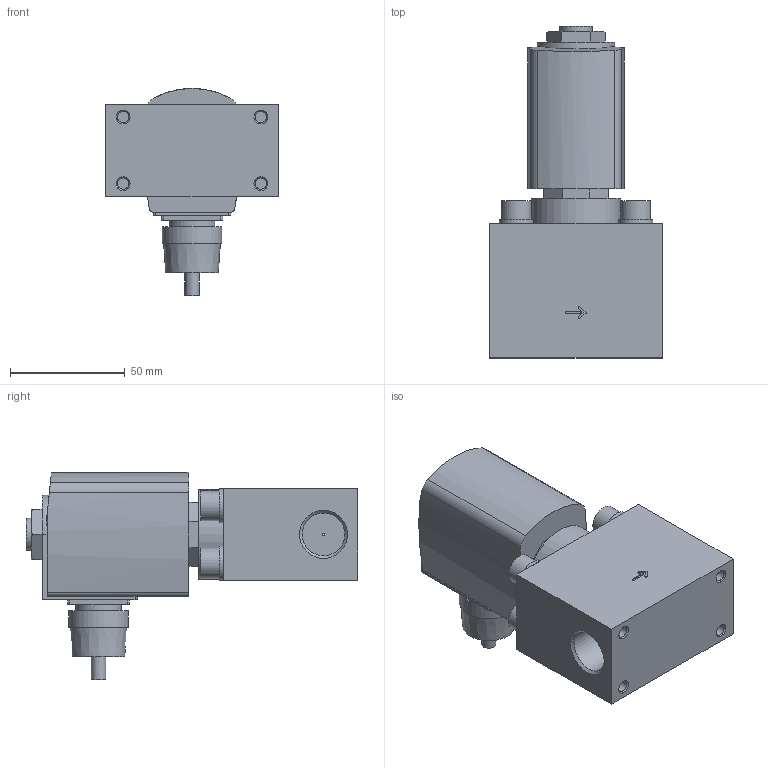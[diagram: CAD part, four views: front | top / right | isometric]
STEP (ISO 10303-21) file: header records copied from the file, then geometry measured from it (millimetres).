
FILE_DESCRIPTION(/* description */ ('STEP AP214'),/* implementation_level */ '2;1');
FILE_NAME(/* name */ '6240-380824-2_2-way_solenoid_valve__pilot-controlled',/* time_stamp */ '2024-05-10T12:40:20+02:00',/* author */ ('License CC BY-ND 4.0'),/* organization */ ('CADENAS'),/* preprocessor_version */ 'ST-DEVELOPER v19.3',/* originating_system */ 'PARTsolutions',/* authorisation */ ' ');
FILE_SCHEMA (('AUTOMOTIVE_DESIGN {1 0 10303 214 3 1 1}'));
Length unit declared in the file: millimetre
Products named in the file (3): 6240-380824-2/2-way solenoid valve, pilot-controlled; 6240-Gehaeuse-2/2-Wege-Magnetventil, vorgesteuert MX32G1/212VA; AC10ex-42ATEXKabelPlan-Coil
Assembly tree (2 placements, depth 2):
  6240-380824-2/2-way solenoid valve, pilot-controlled
    6240-Gehaeuse-2/2-Wege-Magnetventil, vorgesteuert MX32G1/212VA
    AC10ex-42ATEXKabelPlan-Coil
Bounding box: 75 x 144.7 x 90.3 mm (x, y, z)
Volume: 335859.2 mm3; surface area: 44230.9 mm2
Topology: 2 solids, 2 shells, 147 faces, 334 edges, 219 vertices
Faces by surface type: plane 94, cylinder 40, cone 13
Full cylindrical faces by diameter (mm): 1 x1, 4.917 x4, 6.2 x1, 13 x4, 14 x1, 14.8 x4, 18.631 x2, 20 x1, 26 x1, 39 x1
Entity records: 4426 total; most frequent: CARTESIAN_POINT 716, DIRECTION 690, ORIENTED_EDGE 612, EDGE_CURVE 306, AXIS2_PLACEMENT_3D 248, VERTEX_POINT 218, EDGE_LOOP 204, FACE_BOUND 204
